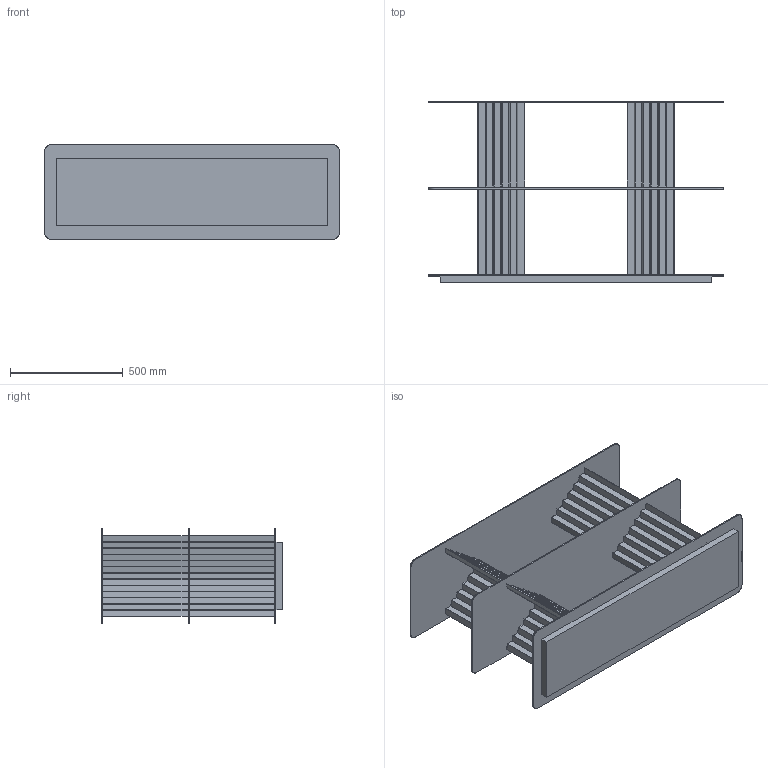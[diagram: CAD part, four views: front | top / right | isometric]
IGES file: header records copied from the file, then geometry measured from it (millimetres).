
Start section: SolidWorks IGES file using analytic representation for surfaces
Global section: file name: Z:\30-Ingenieria I+D\Proyectos\03-Plec_Shelves APO\1-sw\WEB\Arxius\PLEC SHELVES XS 2 NIVELES.IGS; native system: SolidWorks 2020; preprocessor: SolidWorks 2020; author: Bernat Llonch; date: 250508.121413; units: millimetre
Bounding box: 1305 x 803 x 420 mm (x, y, z)
Surface area: 6345683.6 mm2 (no closed solid volume)
Topology: 0 solids, 0 shells, 252 faces, 1584 edges, 1584 vertices
Faces by surface type: bspline 240, revolution 12
